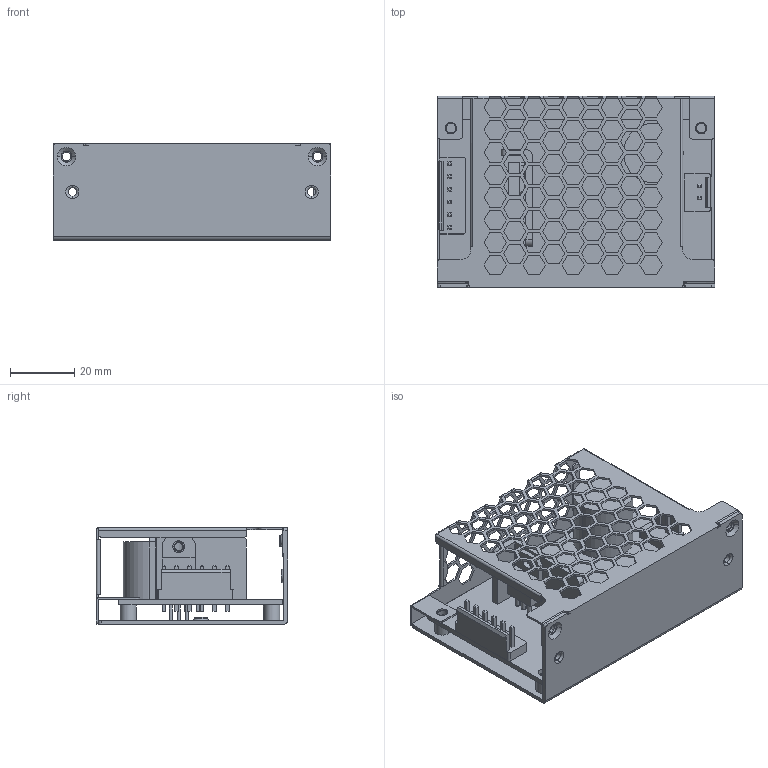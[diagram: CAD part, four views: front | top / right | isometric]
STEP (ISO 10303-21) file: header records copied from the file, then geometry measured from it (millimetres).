
FILE_DESCRIPTION(('Creo Elements/Direct Modeling STEP Export'),'2;1');
FILE_NAME('PSC-35-C.stp','2025-12-30T11:58:43',(''),(''),'Creo Elements/Direct Modeling STEP processor for AP214 (Solid Model)','Creo Elements/Direct Modeling 19.0G 27-Nov-2017 (C) Parametric Technology GmbH','');
FILE_SCHEMA(('AUTOMOTIVE_DESIGN { 1 0 10303 214 1 1 1 1 }'));
Length unit declared in the file: millimetre
Products named in the file (20): 零件1; _X2_96F64EF6_X0_1.PRT; P1_1_PRT_1_PRT.PRT; 8_2_PRT_1_1_1_PRT.PRT; A2_ASM.ASM; 946A-D_PRT.PRT; A1-313240_ASM.ASM; 946_ASM.ASM; PCB_PRT.PRT; A1-318890_ASM.ASM; P2_PRT.PRT; MOS15_5X10_1_1_1_1_1_1_1_1_1_PR.PRT; 8_2_PRT_PRT.PRT; P1_1_PRT_PRT.PRT; 8_2_PRT_PRT_8.PRT; 8_2_PRT_PRT_8_1.PRT; A3_ASM.ASM; PSC-35-C_1_ASM.ASM; PSC-35-C_STP.ASM; PSC-35-C.stp
Assembly tree (22 placements, depth 7):
  零件1
  PSC-35-C.stp
    PSC-35-C_STP.ASM
      PSC-35-C_1_ASM.ASM
        A3_ASM.ASM
          8_2_PRT_PRT_8_1.PRT
          8_2_PRT_PRT_8.PRT
          P1_1_PRT_PRT.PRT
          8_2_PRT_PRT.PRT  x4
        MOS15_5X10_1_1_1_1_1_1_1_1_1_PR.PRT
        P2_PRT.PRT
        A1-318890_ASM.ASM
          PCB_PRT.PRT
          946_ASM.ASM
            A1-313240_ASM.ASM
              946A-D_PRT.PRT
        A2_ASM.ASM
          8_2_PRT_1_1_1_PRT.PRT  x2
          P1_1_PRT_1_PRT.PRT
    _X2_96F64EF6_X0_1.PRT
Bounding box: 86.38 x 59.6 x 30 mm (x, y, z)
Volume: 26457.2 mm3; surface area: 38376 mm2
Topology: 14 solids, 14 shells, 1037 faces, 2920 edges, 1906 vertices
Faces by surface type: plane 847, cylinder 142, torus 24, bspline 18, cone 6
Entity records: 40370 total; most frequent: CARTESIAN_POINT 6685, ORIENTED_EDGE 5680, DIRECTION 4954, EDGE_CURVE 2840, VECTOR 2470, LINE 2470, VERTEX_POINT 1858, AXIS2_PLACEMENT_3D 1242
